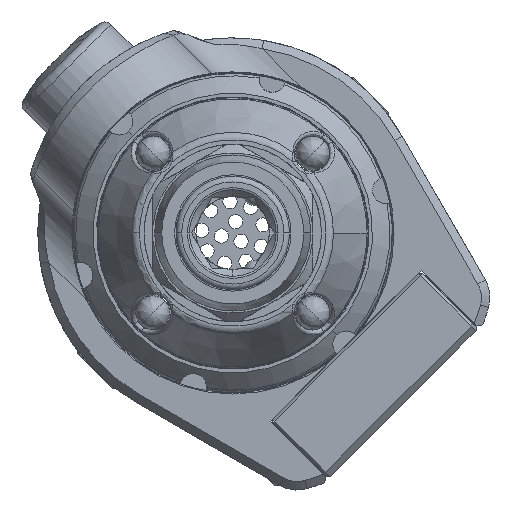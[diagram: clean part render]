
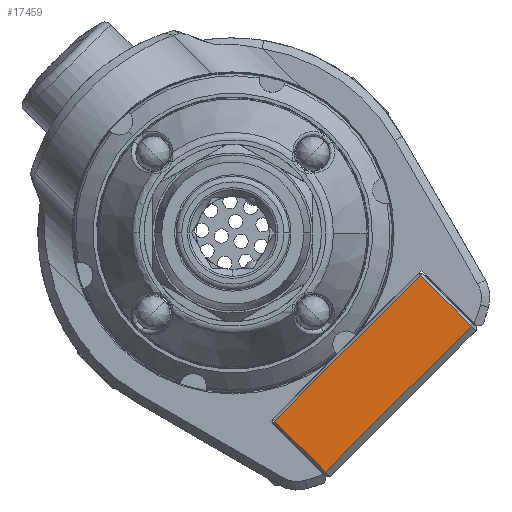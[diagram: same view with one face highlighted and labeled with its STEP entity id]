
A CAD part, left-side view. The second image highlights one B-rep face of the part: STEP entity #17459.
In plain terms, the highlighted planar face has unit normal (-1, 0, 0).
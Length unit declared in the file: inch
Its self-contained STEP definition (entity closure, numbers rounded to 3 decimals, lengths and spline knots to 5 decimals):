
#1047 = VECTOR ( 'NONE', #9603, 39.37008 ) ;
#1107 = VECTOR ( 'NONE', #9488, 39.37008 ) ;
#1592 = VERTEX_POINT ( 'NONE', #11925 ) ;
#1598 = VERTEX_POINT ( 'NONE', #11930 ) ;
#1605 = VECTOR ( 'NONE', #16245, 39.37008 ) ;
#1612 = VERTEX_POINT ( 'NONE', #12158 ) ;
#1683 = VECTOR ( 'NONE', #16409, 39.37008 ) ;
#1732 = VERTEX_POINT ( 'NONE', #10433 ) ;
#2245 = EDGE_CURVE ( 'NONE', #1598, #1612, #18991, .T. ) ;
#2263 = EDGE_CURVE ( 'NONE', #1598, #1592, #18968, .T. ) ;
#3352 = CARTESIAN_POINT ( 'NONE',  ( 3.32101, -0.39822, -0.73442 ) ) ;
#3353 = DIRECTION ( 'NONE',  ( 0., 0.707, -0.707 ) ) ;
#3810 = PLANE ( 'NONE',  #6506 ) ;
#3811 = DIRECTION ( 'NONE',  ( 1., 0., 0. ) ) ;
#6506 = AXIS2_PLACEMENT_3D ( 'NONE', #3352, #3811, #3353 ) ;
#8087 = FACE_OUTER_BOUND ( 'NONE', #18025, .T. ) ;
#9487 = CARTESIAN_POINT ( 'NONE',  ( 3.32101, -0.58469, -0.90688 ) ) ;
#9488 = DIRECTION ( 'NONE',  ( 0., -0.707, -0.707 ) ) ;
#9593 = CARTESIAN_POINT ( 'NONE',  ( 3.32101, -0.39822, -0.73442 ) ) ;
#9603 = DIRECTION ( 'NONE',  ( 0., -0.707, 0.707 ) ) ;
#10433 = CARTESIAN_POINT ( 'NONE',  ( 3.32101, -1.09895, -0.39301 ) ) ;
#11158 = ORIENTED_EDGE ( 'NONE', *, *, #14271, .T. ) ;
#11160 = ORIENTED_EDGE ( 'NONE', *, *, #14341, .T. ) ;
#11161 = ORIENTED_EDGE ( 'NONE', *, *, #2245, .F. ) ;
#11185 = ORIENTED_EDGE ( 'NONE', *, *, #2263, .T. ) ;
#11925 = CARTESIAN_POINT ( 'NONE',  ( 3.32101, -0.58469, -0.90688 ) ) ;
#11930 = CARTESIAN_POINT ( 'NONE',  ( 3.32101, -0.4053, -0.72735 ) ) ;
#12158 = CARTESIAN_POINT ( 'NONE',  ( 3.32101, -0.91956, -0.21348 ) ) ;
#14271 = EDGE_CURVE ( 'NONE', #1732, #1612, #18541, .T. ) ;
#14341 = EDGE_CURVE ( 'NONE', #1592, #1732, #18554, .T. ) ;
#16045 = CARTESIAN_POINT ( 'NONE',  ( 3.32101, -0.57762, -0.91395 ) ) ;
#16244 = CARTESIAN_POINT ( 'NONE',  ( 3.32101, -0.91956, -0.21348 ) ) ;
#16245 = DIRECTION ( 'NONE',  ( 0., 0.707, 0.707 ) ) ;
#16409 = DIRECTION ( 'NONE',  ( 0., -0.707, 0.707 ) ) ;
#17459 = ADVANCED_FACE ( 'NONE', ( #8087 ), #3810, .F. ) ;
#18025 = EDGE_LOOP ( 'NONE', ( #11160, #11158, #11161, #11185 ) ) ;
#18541 = LINE ( 'NONE', #16244, #1605 ) ;
#18554 = LINE ( 'NONE', #16045, #1683 ) ;
#18968 = LINE ( 'NONE', #9487, #1107 ) ;
#18991 = LINE ( 'NONE', #9593, #1047 ) ;
